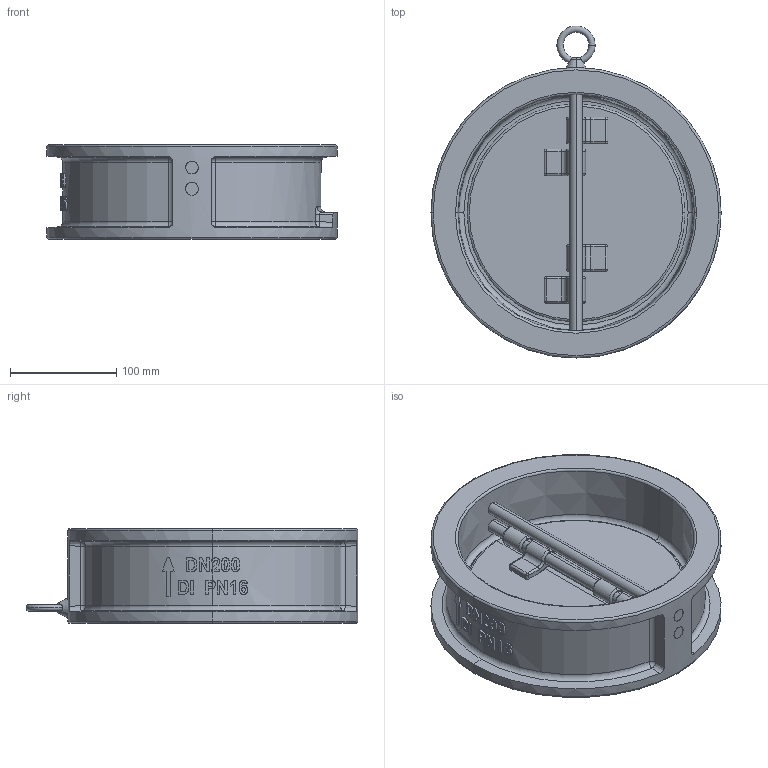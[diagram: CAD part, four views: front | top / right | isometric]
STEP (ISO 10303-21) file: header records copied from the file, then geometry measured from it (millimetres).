
FILE_DESCRIPTION (( 'STEP AP203' ), '1' );
FILE_NAME ('润泽DN200对夹双板止回阀PN16.STEP', '2026-08-19T02:44:43', ( 'Windows 用户' ), ( 'Microsoft' ), 'SwSTEP 2.0', 'SolidWorks 2022', '' );
FILE_SCHEMA (( 'CONFIG_CONTROL_DESIGN' ));
Length unit declared in the file: millimetre
Products named in the file (1): 润泽DN200对夹双板止回阀PN16
Bounding box: 273 x 312.38 x 89 mm (x, y, z)
Volume: 1724249.1 mm3; surface area: 299311.6 mm2
Topology: 1 solids, 1 shells, 325 faces, 785 edges, 478 vertices
Faces by surface type: cylinder 98, plane 96, torus 52, bspline 43, cone 18, sphere 18
Entity records: 13811 total; most frequent: CARTESIAN_POINT 6474, ORIENTED_EDGE 1554, DIRECTION 1464, EDGE_CURVE 777, AXIS2_PLACEMENT_3D 590, VERTEX_POINT 478, EDGE_LOOP 363, FACE_OUTER_BOUND 325
